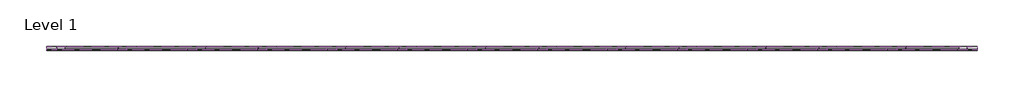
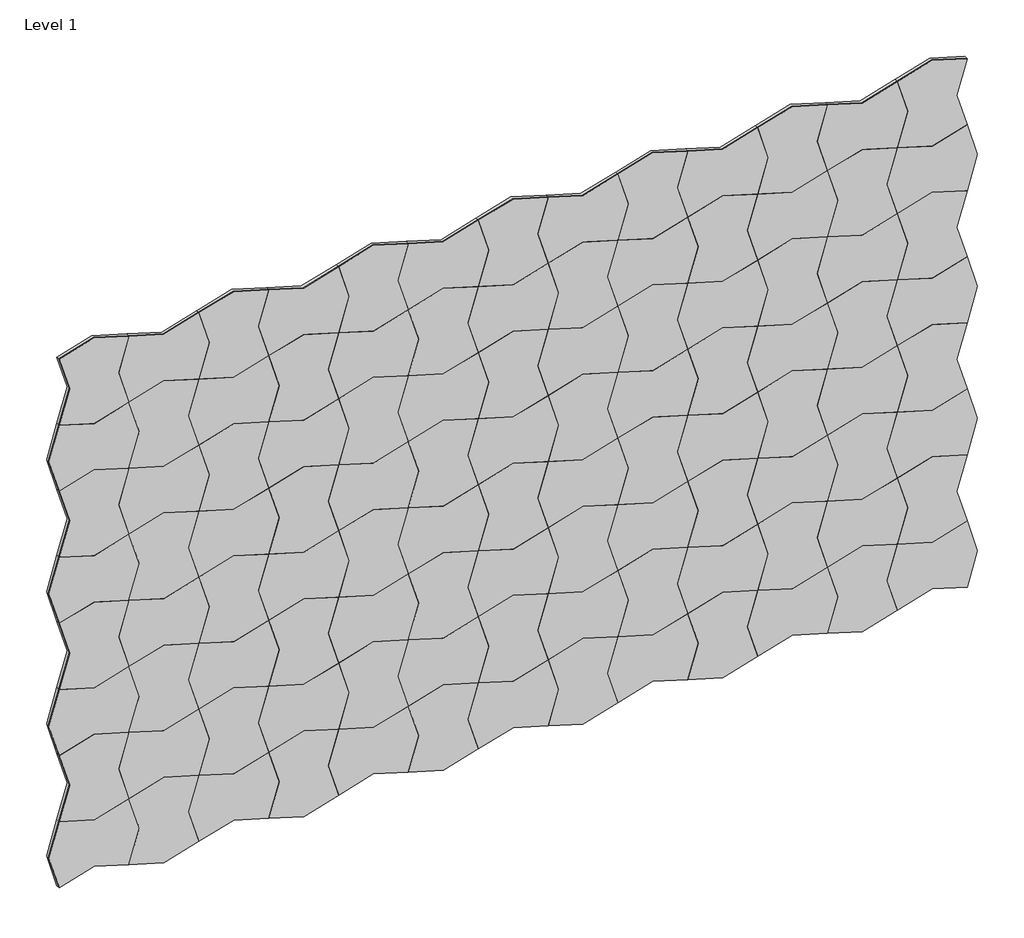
# One storey: 104 proxies.
"""IFC4 building model written with IfcOpenShell, lengths in millimetres."""

from ifc_helpers import new_model, si_unit, origin, place, context, project, spatial, transform, mapped, element, save
from components import bottle_block_542249b9

model = new_model("IFC4")

# Units and contexts
model_context = context("Model", 3, world=origin())
ifc_project = project(units=[si_unit("LENGTHUNIT", "METRE", prefix="MILLI")], contexts=[model_context])

# Site, building, storey
site = spatial("IfcSite", under=ifc_project)
building = spatial("IfcBuilding", under=site)
storey = spatial("IfcBuildingStorey", under=building, Name="Level 1", Elevation=0.0)

# Proxies
placement = place(None, origin())
bottle_block_shape = bottle_block_542249b9(model_context)
element("IfcBuildingElementProxy", 1, Name="FilzFelt_Bottle_Block : Bottle Block", ObjectType="FilzFelt_Bottle_Block : Bottle Block", at=placement, inside=storey, context=model_context, shape_type="MappedRepresentation", body=[
    mapped(bottle_block_shape, transform((6016.2513263, 4010.4660665, 1221.8130651), x_axis=(1.0, 0.0, 0.0), y_axis=(0.0, 0.0, 1.0), z_axis=(0.0, -1.0, 0.0))),
])
element("IfcBuildingElementProxy", 2, Name="FilzFelt_Bottle_Block : Bottle Block", ObjectType="FilzFelt_Bottle_Block : Bottle Block", at=placement, inside=storey, context=model_context, shape_type="MappedRepresentation", body=[
    mapped(bottle_block_shape, transform((6251.2013263, 4010.4660665, 1926.6630651), x_axis=(-1.0, 0.0, 0.0), y_axis=(0.0, 0.0, -1.0), z_axis=(0.0, -1.0, 0.0))),
])
element("IfcBuildingElementProxy", 3, Name="FilzFelt_Bottle_Block : Bottle Block", ObjectType="FilzFelt_Bottle_Block : Bottle Block", at=placement, inside=storey, context=model_context, shape_type="MappedRepresentation", body=[
    mapped(bottle_block_shape, transform((6016.2513263, 4010.4660665, 1926.6630651), x_axis=(0.0, 0.0, -1.0), y_axis=(1.0, 0.0, 0.0), z_axis=(0.0, -1.0, 0.0))),
])
element("IfcBuildingElementProxy", 4, Name="FilzFelt_Bottle_Block : Bottle Block", ObjectType="FilzFelt_Bottle_Block : Bottle Block", at=placement, inside=storey, context=model_context, shape_type="MappedRepresentation", body=[
    mapped(bottle_block_shape, transform((6956.0513263, 4010.4660665, 1691.7130651), x_axis=(1.0, 0.0, 0.0), y_axis=(0.0, 0.0, 1.0), z_axis=(0.0, -1.0, 0.0))),
])
element("IfcBuildingElementProxy", 5, Name="FilzFelt_Bottle_Block : Bottle Block", ObjectType="FilzFelt_Bottle_Block : Bottle Block", at=placement, inside=storey, context=model_context, shape_type="MappedRepresentation", body=[
    mapped(bottle_block_shape, transform((7425.9513263, 4010.4660665, 1221.8130651), x_axis=(1.0, 0.0, 0.0), y_axis=(0.0, 0.0, 1.0), z_axis=(0.0, -1.0, 0.0))),
])
element("IfcBuildingElementProxy", 6, Name="FilzFelt_Bottle_Block : Bottle Block", ObjectType="FilzFelt_Bottle_Block : Bottle Block", at=placement, inside=storey, context=model_context, shape_type="MappedRepresentation", body=[
    mapped(bottle_block_shape, transform((7660.9013263, 4010.4660665, 1926.6630651), x_axis=(-1.0, 0.0, 0.0), y_axis=(0.0, 0.0, -1.0), z_axis=(0.0, -1.0, 0.0))),
])
element("IfcBuildingElementProxy", 7, Name="FilzFelt_Bottle_Block : Bottle Block", ObjectType="FilzFelt_Bottle_Block : Bottle Block", at=placement, inside=storey, context=model_context, shape_type="MappedRepresentation", body=[
    mapped(bottle_block_shape, transform((7425.9513263, 4010.4660665, 1926.6630651), x_axis=(0.0, 0.0, -1.0), y_axis=(1.0, 0.0, 0.0), z_axis=(0.0, -1.0, 0.0))),
])
element("IfcBuildingElementProxy", 8, Name="FilzFelt_Bottle_Block : Bottle Block", ObjectType="FilzFelt_Bottle_Block : Bottle Block", at=placement, inside=storey, context=model_context, shape_type="MappedRepresentation", body=[
    mapped(bottle_block_shape, transform((5546.3513263, 4010.4660665, 1691.7130651), x_axis=(1.0, 0.0, 0.0), y_axis=(0.0, 0.0, 1.0), z_axis=(0.0, -1.0, 0.0))),
])
element("IfcBuildingElementProxy", 9, Name="FilzFelt_Bottle_Block : Bottle Block", ObjectType="FilzFelt_Bottle_Block : Bottle Block", at=placement, inside=storey, context=model_context, shape_type="MappedRepresentation", body=[
    mapped(bottle_block_shape, transform((6016.2513263, 4010.4660665, 986.8630651), x_axis=(0.0, 0.0, -1.0), y_axis=(1.0, 0.0, 0.0), z_axis=(0.0, -1.0, 0.0))),
])
element("IfcBuildingElementProxy", 10, Name="FilzFelt_Bottle_Block : Bottle Block", ObjectType="FilzFelt_Bottle_Block : Bottle Block", at=placement, inside=storey, context=model_context, shape_type="MappedRepresentation", body=[
    mapped(bottle_block_shape, transform((6721.1013263, 4010.4660665, 751.9130651), x_axis=(0.0, 0.0, 1.0), y_axis=(-1.0, 0.0, 0.0), z_axis=(0.0, -1.0, 0.0))),
])
element("IfcBuildingElementProxy", 11, Name="FilzFelt_Bottle_Block : Bottle Block", ObjectType="FilzFelt_Bottle_Block : Bottle Block", at=placement, inside=storey, context=model_context, shape_type="MappedRepresentation", body=[
    mapped(bottle_block_shape, transform((7425.9513263, 4010.4660665, 986.8630651), x_axis=(0.0, 0.0, -1.0), y_axis=(1.0, 0.0, 0.0), z_axis=(0.0, -1.0, 0.0))),
])
element("IfcBuildingElementProxy", 12, Name="FilzFelt_Bottle_Block : Bottle Block", ObjectType="FilzFelt_Bottle_Block : Bottle Block", at=placement, inside=storey, context=model_context, shape_type="MappedRepresentation", body=[
    mapped(bottle_block_shape, transform((8130.8013263, 4010.4660665, 751.9130651), x_axis=(0.0, 0.0, 1.0), y_axis=(-1.0, 0.0, 0.0), z_axis=(0.0, -1.0, 0.0))),
])
element("IfcBuildingElementProxy", 13, Name="FilzFelt_Bottle_Block : Bottle Block", ObjectType="FilzFelt_Bottle_Block : Bottle Block", at=placement, inside=storey, context=model_context, shape_type="MappedRepresentation", body=[
    mapped(bottle_block_shape, transform((6721.1013263, 4010.4660665, 516.9630651), x_axis=(-1.0, 0.0, 0.0), y_axis=(0.0, 0.0, -1.0), z_axis=(0.0, -1.0, 0.0))),
])
element("IfcBuildingElementProxy", 14, Name="FilzFelt_Bottle_Block : Bottle Block", ObjectType="FilzFelt_Bottle_Block : Bottle Block", at=placement, inside=storey, context=model_context, shape_type="MappedRepresentation", body=[
    mapped(bottle_block_shape, transform((8130.8013263, 4010.4660665, 516.9630651), x_axis=(-1.0, 0.0, 0.0), y_axis=(0.0, 0.0, -1.0), z_axis=(0.0, -1.0, 0.0))),
])
element("IfcBuildingElementProxy", 15, Name="FilzFelt_Bottle_Block : Bottle Block", ObjectType="FilzFelt_Bottle_Block : Bottle Block", at=placement, inside=storey, context=model_context, shape_type="MappedRepresentation", body=[
    mapped(bottle_block_shape, transform((8365.7513263, 4010.4660665, 1691.7130651), x_axis=(1.0, 0.0, 0.0), y_axis=(0.0, 0.0, 1.0), z_axis=(0.0, -1.0, 0.0))),
])
element("IfcBuildingElementProxy", 16, Name="FilzFelt_Bottle_Block : Bottle Block", ObjectType="FilzFelt_Bottle_Block : Bottle Block", at=placement, inside=storey, context=model_context, shape_type="MappedRepresentation", body=[
    mapped(bottle_block_shape, transform((6721.1013263, 4010.4660665, 1221.8130651), x_axis=(0.0, 0.0, 1.0), y_axis=(-1.0, 0.0, 0.0), z_axis=(0.0, -1.0, 0.0))),
])
element("IfcBuildingElementProxy", 17, Name="FilzFelt_Bottle_Block : Bottle Block", ObjectType="FilzFelt_Bottle_Block : Bottle Block", at=placement, inside=storey, context=model_context, shape_type="MappedRepresentation", body=[
    mapped(bottle_block_shape, transform((6721.1013263, 4010.4660665, 1456.7630651), x_axis=(-1.0, 0.0, 0.0), y_axis=(0.0, 0.0, -1.0), z_axis=(0.0, -1.0, 0.0))),
])
element("IfcBuildingElementProxy", 18, Name="FilzFelt_Bottle_Block : Bottle Block", ObjectType="FilzFelt_Bottle_Block : Bottle Block", at=placement, inside=storey, context=model_context, shape_type="MappedRepresentation", body=[
    mapped(bottle_block_shape, transform((6486.1513263, 4010.4660665, 1691.7130651), x_axis=(1.0, 0.0, 0.0), y_axis=(0.0, 0.0, 1.0), z_axis=(0.0, -1.0, 0.0))),
])
element("IfcBuildingElementProxy", 19, Name="FilzFelt_Bottle_Block : Bottle Block", ObjectType="FilzFelt_Bottle_Block : Bottle Block", at=placement, inside=storey, context=model_context, shape_type="MappedRepresentation", body=[
    mapped(bottle_block_shape, transform((6486.1513263, 4010.4660665, 1926.6630651), x_axis=(0.0, 0.0, -1.0), y_axis=(1.0, 0.0, 0.0), z_axis=(0.0, -1.0, 0.0))),
])
element("IfcBuildingElementProxy", 20, Name="FilzFelt_Bottle_Block : Bottle Block", ObjectType="FilzFelt_Bottle_Block : Bottle Block", at=placement, inside=storey, context=model_context, shape_type="MappedRepresentation", body=[
    mapped(bottle_block_shape, transform((7191.0013263, 4010.4660665, 1456.7630651), x_axis=(-1.0, 0.0, 0.0), y_axis=(0.0, 0.0, -1.0), z_axis=(0.0, -1.0, 0.0))),
])
element("IfcBuildingElementProxy", 21, Name="FilzFelt_Bottle_Block : Bottle Block", ObjectType="FilzFelt_Bottle_Block : Bottle Block", at=placement, inside=storey, context=model_context, shape_type="MappedRepresentation", body=[
    mapped(bottle_block_shape, transform((6956.0513263, 4010.4660665, 1456.7630651), x_axis=(0.0, 0.0, -1.0), y_axis=(1.0, 0.0, 0.0), z_axis=(0.0, -1.0, 0.0))),
])
element("IfcBuildingElementProxy", 22, Name="FilzFelt_Bottle_Block : Bottle Block", ObjectType="FilzFelt_Bottle_Block : Bottle Block", at=placement, inside=storey, context=model_context, shape_type="MappedRepresentation", body=[
    mapped(bottle_block_shape, transform((8130.8013263, 4010.4660665, 1221.8130651), x_axis=(0.0, 0.0, 1.0), y_axis=(-1.0, 0.0, 0.0), z_axis=(0.0, -1.0, 0.0))),
])
element("IfcBuildingElementProxy", 23, Name="FilzFelt_Bottle_Block : Bottle Block", ObjectType="FilzFelt_Bottle_Block : Bottle Block", at=placement, inside=storey, context=model_context, shape_type="MappedRepresentation", body=[
    mapped(bottle_block_shape, transform((8130.8013263, 4010.4660665, 1456.7630651), x_axis=(-1.0, 0.0, 0.0), y_axis=(0.0, 0.0, -1.0), z_axis=(0.0, -1.0, 0.0))),
])
element("IfcBuildingElementProxy", 24, Name="FilzFelt_Bottle_Block : Bottle Block", ObjectType="FilzFelt_Bottle_Block : Bottle Block", at=placement, inside=storey, context=model_context, shape_type="MappedRepresentation", body=[
    mapped(bottle_block_shape, transform((7895.8513263, 4010.4660665, 1691.7130651), x_axis=(1.0, 0.0, 0.0), y_axis=(0.0, 0.0, 1.0), z_axis=(0.0, -1.0, 0.0))),
])
element("IfcBuildingElementProxy", 25, Name="FilzFelt_Bottle_Block : Bottle Block", ObjectType="FilzFelt_Bottle_Block : Bottle Block", at=placement, inside=storey, context=model_context, shape_type="MappedRepresentation", body=[
    mapped(bottle_block_shape, transform((7895.8513263, 4010.4660665, 1926.6630651), x_axis=(0.0, 0.0, -1.0), y_axis=(1.0, 0.0, 0.0), z_axis=(0.0, -1.0, 0.0))),
])
element("IfcBuildingElementProxy", 26, Name="FilzFelt_Bottle_Block : Bottle Block", ObjectType="FilzFelt_Bottle_Block : Bottle Block", at=placement, inside=storey, context=model_context, shape_type="MappedRepresentation", body=[
    mapped(bottle_block_shape, transform((5781.3013263, 4010.4660665, 1456.7630651), x_axis=(-1.0, 0.0, 0.0), y_axis=(0.0, 0.0, -1.0), z_axis=(0.0, -1.0, 0.0))),
])
element("IfcBuildingElementProxy", 27, Name="FilzFelt_Bottle_Block : Bottle Block", ObjectType="FilzFelt_Bottle_Block : Bottle Block", at=placement, inside=storey, context=model_context, shape_type="MappedRepresentation", body=[
    mapped(bottle_block_shape, transform((5546.3513263, 4010.4660665, 1456.7630651), x_axis=(0.0, 0.0, -1.0), y_axis=(1.0, 0.0, 0.0), z_axis=(0.0, -1.0, 0.0))),
])
element("IfcBuildingElementProxy", 28, Name="FilzFelt_Bottle_Block : Bottle Block", ObjectType="FilzFelt_Bottle_Block : Bottle Block", at=placement, inside=storey, context=model_context, shape_type="MappedRepresentation", body=[
    mapped(bottle_block_shape, transform((6016.2513263, 4010.4660665, 516.9630651), x_axis=(0.0, 0.0, -1.0), y_axis=(1.0, 0.0, 0.0), z_axis=(0.0, -1.0, 0.0))),
])
element("IfcBuildingElementProxy", 29, Name="FilzFelt_Bottle_Block : Bottle Block", ObjectType="FilzFelt_Bottle_Block : Bottle Block", at=placement, inside=storey, context=model_context, shape_type="MappedRepresentation", body=[
    mapped(bottle_block_shape, transform((7191.0013263, 4010.4660665, 516.9630651), x_axis=(-1.0, 0.0, 0.0), y_axis=(0.0, 0.0, -1.0), z_axis=(0.0, -1.0, 0.0))),
])
element("IfcBuildingElementProxy", 30, Name="FilzFelt_Bottle_Block : Bottle Block", ObjectType="FilzFelt_Bottle_Block : Bottle Block", at=placement, inside=storey, context=model_context, shape_type="MappedRepresentation", body=[
    mapped(bottle_block_shape, transform((7425.9513263, 4010.4660665, 516.9630651), x_axis=(0.0, 0.0, -1.0), y_axis=(1.0, 0.0, 0.0), z_axis=(0.0, -1.0, 0.0))),
])
element("IfcBuildingElementProxy", 31, Name="FilzFelt_Bottle_Block : Bottle Block", ObjectType="FilzFelt_Bottle_Block : Bottle Block", at=placement, inside=storey, context=model_context, shape_type="MappedRepresentation", body=[
    mapped(bottle_block_shape, transform((5781.3013263, 4010.4660665, 516.9630651), x_axis=(-1.0, 0.0, 0.0), y_axis=(0.0, 0.0, -1.0), z_axis=(0.0, -1.0, 0.0))),
])
element("IfcBuildingElementProxy", 32, Name="FilzFelt_Bottle_Block : Bottle Block", ObjectType="FilzFelt_Bottle_Block : Bottle Block", at=placement, inside=storey, context=model_context, shape_type="MappedRepresentation", body=[
    mapped(bottle_block_shape, transform((8365.7513263, 4010.4660665, 1456.7630651), x_axis=(0.0, 0.0, -1.0), y_axis=(1.0, 0.0, 0.0), z_axis=(0.0, -1.0, 0.0))),
])
element("IfcBuildingElementProxy", 33, Name="FilzFelt_Bottle_Block : Bottle Block", ObjectType="FilzFelt_Bottle_Block : Bottle Block", at=placement, inside=storey, context=model_context, shape_type="MappedRepresentation", body=[
    mapped(bottle_block_shape, transform((6251.2013263, 4010.4660665, 1221.8130651), x_axis=(0.0, 0.0, 1.0), y_axis=(-1.0, 0.0, 0.0), z_axis=(0.0, -1.0, 0.0))),
])
element("IfcBuildingElementProxy", 34, Name="FilzFelt_Bottle_Block : Bottle Block", ObjectType="FilzFelt_Bottle_Block : Bottle Block", at=placement, inside=storey, context=model_context, shape_type="MappedRepresentation", body=[
    mapped(bottle_block_shape, transform((6251.2013263, 4010.4660665, 1456.7630651), x_axis=(-1.0, 0.0, 0.0), y_axis=(0.0, 0.0, -1.0), z_axis=(0.0, -1.0, 0.0))),
])
element("IfcBuildingElementProxy", 35, Name="FilzFelt_Bottle_Block : Bottle Block", ObjectType="FilzFelt_Bottle_Block : Bottle Block", at=placement, inside=storey, context=model_context, shape_type="MappedRepresentation", body=[
    mapped(bottle_block_shape, transform((6486.1513263, 4010.4660665, 2161.6130651), x_axis=(1.0, 0.0, 0.0), y_axis=(0.0, 0.0, 1.0), z_axis=(0.0, -1.0, 0.0))),
])
element("IfcBuildingElementProxy", 36, Name="FilzFelt_Bottle_Block : Bottle Block", ObjectType="FilzFelt_Bottle_Block : Bottle Block", at=placement, inside=storey, context=model_context, shape_type="MappedRepresentation", body=[
    mapped(bottle_block_shape, transform((6721.1013263, 4010.4660665, 2161.6130651), x_axis=(0.0, 0.0, 1.0), y_axis=(-1.0, 0.0, 0.0), z_axis=(0.0, -1.0, 0.0))),
])
element("IfcBuildingElementProxy", 37, Name="FilzFelt_Bottle_Block : Bottle Block", ObjectType="FilzFelt_Bottle_Block : Bottle Block", at=placement, inside=storey, context=model_context, shape_type="MappedRepresentation", body=[
    mapped(bottle_block_shape, transform((7191.0013263, 4010.4660665, 1926.6630651), x_axis=(-1.0, 0.0, 0.0), y_axis=(0.0, 0.0, -1.0), z_axis=(0.0, -1.0, 0.0))),
])
element("IfcBuildingElementProxy", 38, Name="FilzFelt_Bottle_Block : Bottle Block", ObjectType="FilzFelt_Bottle_Block : Bottle Block", at=placement, inside=storey, context=model_context, shape_type="MappedRepresentation", body=[
    mapped(bottle_block_shape, transform((7191.0013263, 4010.4660665, 2161.6130651), x_axis=(0.0, 0.0, 1.0), y_axis=(-1.0, 0.0, 0.0), z_axis=(0.0, -1.0, 0.0))),
])
element("IfcBuildingElementProxy", 39, Name="FilzFelt_Bottle_Block : Bottle Block", ObjectType="FilzFelt_Bottle_Block : Bottle Block", at=placement, inside=storey, context=model_context, shape_type="MappedRepresentation", body=[
    mapped(bottle_block_shape, transform((7660.9013263, 4010.4660665, 1221.8130651), x_axis=(0.0, 0.0, 1.0), y_axis=(-1.0, 0.0, 0.0), z_axis=(0.0, -1.0, 0.0))),
])
element("IfcBuildingElementProxy", 40, Name="FilzFelt_Bottle_Block : Bottle Block", ObjectType="FilzFelt_Bottle_Block : Bottle Block", at=placement, inside=storey, context=model_context, shape_type="MappedRepresentation", body=[
    mapped(bottle_block_shape, transform((7660.9013263, 4010.4660665, 1456.7630651), x_axis=(-1.0, 0.0, 0.0), y_axis=(0.0, 0.0, -1.0), z_axis=(0.0, -1.0, 0.0))),
])
element("IfcBuildingElementProxy", 41, Name="FilzFelt_Bottle_Block : Bottle Block", ObjectType="FilzFelt_Bottle_Block : Bottle Block", at=placement, inside=storey, context=model_context, shape_type="MappedRepresentation", body=[
    mapped(bottle_block_shape, transform((7895.8513263, 4010.4660665, 2161.6130651), x_axis=(1.0, 0.0, 0.0), y_axis=(0.0, 0.0, 1.0), z_axis=(0.0, -1.0, 0.0))),
])
element("IfcBuildingElementProxy", 42, Name="FilzFelt_Bottle_Block : Bottle Block", ObjectType="FilzFelt_Bottle_Block : Bottle Block", at=placement, inside=storey, context=model_context, shape_type="MappedRepresentation", body=[
    mapped(bottle_block_shape, transform((8130.8013263, 4010.4660665, 2161.6130651), x_axis=(0.0, 0.0, 1.0), y_axis=(-1.0, 0.0, 0.0), z_axis=(0.0, -1.0, 0.0))),
])
element("IfcBuildingElementProxy", 43, Name="FilzFelt_Bottle_Block : Bottle Block", ObjectType="FilzFelt_Bottle_Block : Bottle Block", at=placement, inside=storey, context=model_context, shape_type="MappedRepresentation", body=[
    mapped(bottle_block_shape, transform((5781.3013263, 4010.4660665, 1926.6630651), x_axis=(-1.0, 0.0, 0.0), y_axis=(0.0, 0.0, -1.0), z_axis=(0.0, -1.0, 0.0))),
])
element("IfcBuildingElementProxy", 44, Name="FilzFelt_Bottle_Block : Bottle Block", ObjectType="FilzFelt_Bottle_Block : Bottle Block", at=placement, inside=storey, context=model_context, shape_type="MappedRepresentation", body=[
    mapped(bottle_block_shape, transform((5781.3013263, 4010.4660665, 2161.6130651), x_axis=(0.0, 0.0, 1.0), y_axis=(-1.0, 0.0, 0.0), z_axis=(0.0, -1.0, 0.0))),
])
element("IfcBuildingElementProxy", 45, Name="FilzFelt_Bottle_Block : Bottle Block", ObjectType="FilzFelt_Bottle_Block : Bottle Block", at=placement, inside=storey, context=model_context, shape_type="MappedRepresentation", body=[
    mapped(bottle_block_shape, transform((6251.2013263, 4010.4660665, 751.9130651), x_axis=(0.0, 0.0, 1.0), y_axis=(-1.0, 0.0, 0.0), z_axis=(0.0, -1.0, 0.0))),
])
element("IfcBuildingElementProxy", 46, Name="FilzFelt_Bottle_Block : Bottle Block", ObjectType="FilzFelt_Bottle_Block : Bottle Block", at=placement, inside=storey, context=model_context, shape_type="MappedRepresentation", body=[
    mapped(bottle_block_shape, transform((6486.1513263, 4010.4660665, 751.9130651), x_axis=(1.0, 0.0, 0.0), y_axis=(0.0, 0.0, 1.0), z_axis=(0.0, -1.0, 0.0))),
])
element("IfcBuildingElementProxy", 47, Name="FilzFelt_Bottle_Block : Bottle Block", ObjectType="FilzFelt_Bottle_Block : Bottle Block", at=placement, inside=storey, context=model_context, shape_type="MappedRepresentation", body=[
    mapped(bottle_block_shape, transform((6721.1013263, 4010.4660665, 986.8630651), x_axis=(-1.0, 0.0, 0.0), y_axis=(0.0, 0.0, -1.0), z_axis=(0.0, -1.0, 0.0))),
])
element("IfcBuildingElementProxy", 48, Name="FilzFelt_Bottle_Block : Bottle Block", ObjectType="FilzFelt_Bottle_Block : Bottle Block", at=placement, inside=storey, context=model_context, shape_type="MappedRepresentation", body=[
    mapped(bottle_block_shape, transform((6956.0513263, 4010.4660665, 751.9130651), x_axis=(1.0, 0.0, 0.0), y_axis=(0.0, 0.0, 1.0), z_axis=(0.0, -1.0, 0.0))),
])
element("IfcBuildingElementProxy", 49, Name="FilzFelt_Bottle_Block : Bottle Block", ObjectType="FilzFelt_Bottle_Block : Bottle Block", at=placement, inside=storey, context=model_context, shape_type="MappedRepresentation", body=[
    mapped(bottle_block_shape, transform((6956.0513263, 4010.4660665, 986.8630651), x_axis=(0.0, 0.0, -1.0), y_axis=(1.0, 0.0, 0.0), z_axis=(0.0, -1.0, 0.0))),
])
element("IfcBuildingElementProxy", 50, Name="FilzFelt_Bottle_Block : Bottle Block", ObjectType="FilzFelt_Bottle_Block : Bottle Block", at=placement, inside=storey, context=model_context, shape_type="MappedRepresentation", body=[
    mapped(bottle_block_shape, transform((7660.9013263, 4010.4660665, 751.9130651), x_axis=(0.0, 0.0, 1.0), y_axis=(-1.0, 0.0, 0.0), z_axis=(0.0, -1.0, 0.0))),
])
element("IfcBuildingElementProxy", 51, Name="FilzFelt_Bottle_Block : Bottle Block", ObjectType="FilzFelt_Bottle_Block : Bottle Block", at=placement, inside=storey, context=model_context, shape_type="MappedRepresentation", body=[
    mapped(bottle_block_shape, transform((7895.8513263, 4010.4660665, 751.9130651), x_axis=(1.0, 0.0, 0.0), y_axis=(0.0, 0.0, 1.0), z_axis=(0.0, -1.0, 0.0))),
])
element("IfcBuildingElementProxy", 52, Name="FilzFelt_Bottle_Block : Bottle Block", ObjectType="FilzFelt_Bottle_Block : Bottle Block", at=placement, inside=storey, context=model_context, shape_type="MappedRepresentation", body=[
    mapped(bottle_block_shape, transform((8130.8013263, 4010.4660665, 986.8630651), x_axis=(-1.0, 0.0, 0.0), y_axis=(0.0, 0.0, -1.0), z_axis=(0.0, -1.0, 0.0))),
])
element("IfcBuildingElementProxy", 53, Name="FilzFelt_Bottle_Block : Bottle Block", ObjectType="FilzFelt_Bottle_Block : Bottle Block", at=placement, inside=storey, context=model_context, shape_type="MappedRepresentation", body=[
    mapped(bottle_block_shape, transform((5546.3513263, 4010.4660665, 751.9130651), x_axis=(1.0, 0.0, 0.0), y_axis=(0.0, 0.0, 1.0), z_axis=(0.0, -1.0, 0.0))),
])
element("IfcBuildingElementProxy", 54, Name="FilzFelt_Bottle_Block : Bottle Block", ObjectType="FilzFelt_Bottle_Block : Bottle Block", at=placement, inside=storey, context=model_context, shape_type="MappedRepresentation", body=[
    mapped(bottle_block_shape, transform((5546.3513263, 4010.4660665, 986.8630651), x_axis=(0.0, 0.0, -1.0), y_axis=(1.0, 0.0, 0.0), z_axis=(0.0, -1.0, 0.0))),
])
element("IfcBuildingElementProxy", 55, Name="FilzFelt_Bottle_Block : Bottle Block", ObjectType="FilzFelt_Bottle_Block : Bottle Block", at=placement, inside=storey, context=model_context, shape_type="MappedRepresentation", body=[
    mapped(bottle_block_shape, transform((8365.7513263, 4010.4660665, 751.9130651), x_axis=(1.0, 0.0, 0.0), y_axis=(0.0, 0.0, 1.0), z_axis=(0.0, -1.0, 0.0))),
])
element("IfcBuildingElementProxy", 56, Name="FilzFelt_Bottle_Block : Bottle Block", ObjectType="FilzFelt_Bottle_Block : Bottle Block", at=placement, inside=storey, context=model_context, shape_type="MappedRepresentation", body=[
    mapped(bottle_block_shape, transform((8365.7513263, 4010.4660665, 986.8630651), x_axis=(0.0, 0.0, -1.0), y_axis=(1.0, 0.0, 0.0), z_axis=(0.0, -1.0, 0.0))),
])
element("IfcBuildingElementProxy", 57, Name="FilzFelt_Bottle_Block : Bottle Block", ObjectType="FilzFelt_Bottle_Block : Bottle Block", at=placement, inside=storey, context=model_context, shape_type="MappedRepresentation", body=[
    mapped(bottle_block_shape, transform((6016.2513263, 4010.4660665, 1456.7630651), x_axis=(0.0, 0.0, -1.0), y_axis=(1.0, 0.0, 0.0), z_axis=(0.0, -1.0, 0.0))),
])
element("IfcBuildingElementProxy", 58, Name="FilzFelt_Bottle_Block : Bottle Block", ObjectType="FilzFelt_Bottle_Block : Bottle Block", at=placement, inside=storey, context=model_context, shape_type="MappedRepresentation", body=[
    mapped(bottle_block_shape, transform((6016.2513263, 4010.4660665, 1691.7130651), x_axis=(1.0, 0.0, 0.0), y_axis=(0.0, 0.0, 1.0), z_axis=(0.0, -1.0, 0.0))),
])
element("IfcBuildingElementProxy", 59, Name="FilzFelt_Bottle_Block : Bottle Block", ObjectType="FilzFelt_Bottle_Block : Bottle Block", at=placement, inside=storey, context=model_context, shape_type="MappedRepresentation", body=[
    mapped(bottle_block_shape, transform((6251.2013263, 4010.4660665, 1691.7130651), x_axis=(0.0, 0.0, 1.0), y_axis=(-1.0, 0.0, 0.0), z_axis=(0.0, -1.0, 0.0))),
])
element("IfcBuildingElementProxy", 60, Name="FilzFelt_Bottle_Block : Bottle Block", ObjectType="FilzFelt_Bottle_Block : Bottle Block", at=placement, inside=storey, context=model_context, shape_type="MappedRepresentation", body=[
    mapped(bottle_block_shape, transform((6016.2513263, 4010.4660665, 2161.6130651), x_axis=(1.0, 0.0, 0.0), y_axis=(0.0, 0.0, 1.0), z_axis=(0.0, -1.0, 0.0))),
])
element("IfcBuildingElementProxy", 61, Name="FilzFelt_Bottle_Block : Bottle Block", ObjectType="FilzFelt_Bottle_Block : Bottle Block", at=placement, inside=storey, context=model_context, shape_type="MappedRepresentation", body=[
    mapped(bottle_block_shape, transform((6251.2013263, 4010.4660665, 2161.6130651), x_axis=(0.0, 0.0, 1.0), y_axis=(-1.0, 0.0, 0.0), z_axis=(0.0, -1.0, 0.0))),
])
element("IfcBuildingElementProxy", 62, Name="FilzFelt_Bottle_Block : Bottle Block", ObjectType="FilzFelt_Bottle_Block : Bottle Block", at=placement, inside=storey, context=model_context, shape_type="MappedRepresentation", body=[
    mapped(bottle_block_shape, transform((6486.1513263, 4010.4660665, 1221.8130651), x_axis=(1.0, 0.0, 0.0), y_axis=(0.0, 0.0, 1.0), z_axis=(0.0, -1.0, 0.0))),
])
element("IfcBuildingElementProxy", 63, Name="FilzFelt_Bottle_Block : Bottle Block", ObjectType="FilzFelt_Bottle_Block : Bottle Block", at=placement, inside=storey, context=model_context, shape_type="MappedRepresentation", body=[
    mapped(bottle_block_shape, transform((6486.1513263, 4010.4660665, 1456.7630651), x_axis=(0.0, 0.0, -1.0), y_axis=(1.0, 0.0, 0.0), z_axis=(0.0, -1.0, 0.0))),
])
element("IfcBuildingElementProxy", 64, Name="FilzFelt_Bottle_Block : Bottle Block", ObjectType="FilzFelt_Bottle_Block : Bottle Block", at=placement, inside=storey, context=model_context, shape_type="MappedRepresentation", body=[
    mapped(bottle_block_shape, transform((6721.1013263, 4010.4660665, 1691.7130651), x_axis=(0.0, 0.0, 1.0), y_axis=(-1.0, 0.0, 0.0), z_axis=(0.0, -1.0, 0.0))),
])
element("IfcBuildingElementProxy", 65, Name="FilzFelt_Bottle_Block : Bottle Block", ObjectType="FilzFelt_Bottle_Block : Bottle Block", at=placement, inside=storey, context=model_context, shape_type="MappedRepresentation", body=[
    mapped(bottle_block_shape, transform((6721.1013263, 4010.4660665, 1926.6630651), x_axis=(-1.0, 0.0, 0.0), y_axis=(0.0, 0.0, -1.0), z_axis=(0.0, -1.0, 0.0))),
])
element("IfcBuildingElementProxy", 66, Name="FilzFelt_Bottle_Block : Bottle Block", ObjectType="FilzFelt_Bottle_Block : Bottle Block", at=placement, inside=storey, context=model_context, shape_type="MappedRepresentation", body=[
    mapped(bottle_block_shape, transform((6956.0513263, 4010.4660665, 1221.8130651), x_axis=(1.0, 0.0, 0.0), y_axis=(0.0, 0.0, 1.0), z_axis=(0.0, -1.0, 0.0))),
])
element("IfcBuildingElementProxy", 67, Name="FilzFelt_Bottle_Block : Bottle Block", ObjectType="FilzFelt_Bottle_Block : Bottle Block", at=placement, inside=storey, context=model_context, shape_type="MappedRepresentation", body=[
    mapped(bottle_block_shape, transform((7191.0013263, 4010.4660665, 1221.8130651), x_axis=(0.0, 0.0, 1.0), y_axis=(-1.0, 0.0, 0.0), z_axis=(0.0, -1.0, 0.0))),
])
element("IfcBuildingElementProxy", 68, Name="FilzFelt_Bottle_Block : Bottle Block", ObjectType="FilzFelt_Bottle_Block : Bottle Block", at=placement, inside=storey, context=model_context, shape_type="MappedRepresentation", body=[
    mapped(bottle_block_shape, transform((7191.0013263, 4010.4660665, 1691.7130651), x_axis=(0.0, 0.0, 1.0), y_axis=(-1.0, 0.0, 0.0), z_axis=(0.0, -1.0, 0.0))),
])
element("IfcBuildingElementProxy", 69, Name="FilzFelt_Bottle_Block : Bottle Block", ObjectType="FilzFelt_Bottle_Block : Bottle Block", at=placement, inside=storey, context=model_context, shape_type="MappedRepresentation", body=[
    mapped(bottle_block_shape, transform((6956.0513263, 4010.4660665, 1926.6630651), x_axis=(0.0, 0.0, -1.0), y_axis=(1.0, 0.0, 0.0), z_axis=(0.0, -1.0, 0.0))),
])
element("IfcBuildingElementProxy", 70, Name="FilzFelt_Bottle_Block : Bottle Block", ObjectType="FilzFelt_Bottle_Block : Bottle Block", at=placement, inside=storey, context=model_context, shape_type="MappedRepresentation", body=[
    mapped(bottle_block_shape, transform((6956.0513263, 4010.4660665, 2161.6130651), x_axis=(1.0, 0.0, 0.0), y_axis=(0.0, 0.0, 1.0), z_axis=(0.0, -1.0, 0.0))),
])
element("IfcBuildingElementProxy", 71, Name="FilzFelt_Bottle_Block : Bottle Block", ObjectType="FilzFelt_Bottle_Block : Bottle Block", at=placement, inside=storey, context=model_context, shape_type="MappedRepresentation", body=[
    mapped(bottle_block_shape, transform((7425.9513263, 4010.4660665, 1456.7630651), x_axis=(0.0, 0.0, -1.0), y_axis=(1.0, 0.0, 0.0), z_axis=(0.0, -1.0, 0.0))),
])
element("IfcBuildingElementProxy", 72, Name="FilzFelt_Bottle_Block : Bottle Block", ObjectType="FilzFelt_Bottle_Block : Bottle Block", at=placement, inside=storey, context=model_context, shape_type="MappedRepresentation", body=[
    mapped(bottle_block_shape, transform((7425.9513263, 4010.4660665, 1691.7130651), x_axis=(1.0, 0.0, 0.0), y_axis=(0.0, 0.0, 1.0), z_axis=(0.0, -1.0, 0.0))),
])
element("IfcBuildingElementProxy", 73, Name="FilzFelt_Bottle_Block : Bottle Block", ObjectType="FilzFelt_Bottle_Block : Bottle Block", at=placement, inside=storey, context=model_context, shape_type="MappedRepresentation", body=[
    mapped(bottle_block_shape, transform((7660.9013263, 4010.4660665, 1691.7130651), x_axis=(0.0, 0.0, 1.0), y_axis=(-1.0, 0.0, 0.0), z_axis=(0.0, -1.0, 0.0))),
])
element("IfcBuildingElementProxy", 74, Name="FilzFelt_Bottle_Block : Bottle Block", ObjectType="FilzFelt_Bottle_Block : Bottle Block", at=placement, inside=storey, context=model_context, shape_type="MappedRepresentation", body=[
    mapped(bottle_block_shape, transform((7425.9513263, 4010.4660665, 2161.6130651), x_axis=(1.0, 0.0, 0.0), y_axis=(0.0, 0.0, 1.0), z_axis=(0.0, -1.0, 0.0))),
])
element("IfcBuildingElementProxy", 75, Name="FilzFelt_Bottle_Block : Bottle Block", ObjectType="FilzFelt_Bottle_Block : Bottle Block", at=placement, inside=storey, context=model_context, shape_type="MappedRepresentation", body=[
    mapped(bottle_block_shape, transform((7660.9013263, 4010.4660665, 2161.6130651), x_axis=(0.0, 0.0, 1.0), y_axis=(-1.0, 0.0, 0.0), z_axis=(0.0, -1.0, 0.0))),
])
element("IfcBuildingElementProxy", 76, Name="FilzFelt_Bottle_Block : Bottle Block", ObjectType="FilzFelt_Bottle_Block : Bottle Block", at=placement, inside=storey, context=model_context, shape_type="MappedRepresentation", body=[
    mapped(bottle_block_shape, transform((7895.8513263, 4010.4660665, 1221.8130651), x_axis=(1.0, 0.0, 0.0), y_axis=(0.0, 0.0, 1.0), z_axis=(0.0, -1.0, 0.0))),
])
element("IfcBuildingElementProxy", 77, Name="FilzFelt_Bottle_Block : Bottle Block", ObjectType="FilzFelt_Bottle_Block : Bottle Block", at=placement, inside=storey, context=model_context, shape_type="MappedRepresentation", body=[
    mapped(bottle_block_shape, transform((7895.8513263, 4010.4660665, 1456.7630651), x_axis=(0.0, 0.0, -1.0), y_axis=(1.0, 0.0, 0.0), z_axis=(0.0, -1.0, 0.0))),
])
element("IfcBuildingElementProxy", 78, Name="FilzFelt_Bottle_Block : Bottle Block", ObjectType="FilzFelt_Bottle_Block : Bottle Block", at=placement, inside=storey, context=model_context, shape_type="MappedRepresentation", body=[
    mapped(bottle_block_shape, transform((8130.8013263, 4010.4660665, 1691.7130651), x_axis=(0.0, 0.0, 1.0), y_axis=(-1.0, 0.0, 0.0), z_axis=(0.0, -1.0, 0.0))),
])
element("IfcBuildingElementProxy", 79, Name="FilzFelt_Bottle_Block : Bottle Block", ObjectType="FilzFelt_Bottle_Block : Bottle Block", at=placement, inside=storey, context=model_context, shape_type="MappedRepresentation", body=[
    mapped(bottle_block_shape, transform((8130.8013263, 4010.4660665, 1926.6630651), x_axis=(-1.0, 0.0, 0.0), y_axis=(0.0, 0.0, -1.0), z_axis=(0.0, -1.0, 0.0))),
])
element("IfcBuildingElementProxy", 80, Name="FilzFelt_Bottle_Block : Bottle Block", ObjectType="FilzFelt_Bottle_Block : Bottle Block", at=placement, inside=storey, context=model_context, shape_type="MappedRepresentation", body=[
    mapped(bottle_block_shape, transform((5546.3513263, 4010.4660665, 1221.8130651), x_axis=(1.0, 0.0, 0.0), y_axis=(0.0, 0.0, 1.0), z_axis=(0.0, -1.0, 0.0))),
])
element("IfcBuildingElementProxy", 81, Name="FilzFelt_Bottle_Block : Bottle Block", ObjectType="FilzFelt_Bottle_Block : Bottle Block", at=placement, inside=storey, context=model_context, shape_type="MappedRepresentation", body=[
    mapped(bottle_block_shape, transform((5781.3013263, 4010.4660665, 1221.8130651), x_axis=(0.0, 0.0, 1.0), y_axis=(-1.0, 0.0, 0.0), z_axis=(0.0, -1.0, 0.0))),
])
element("IfcBuildingElementProxy", 82, Name="FilzFelt_Bottle_Block : Bottle Block", ObjectType="FilzFelt_Bottle_Block : Bottle Block", at=placement, inside=storey, context=model_context, shape_type="MappedRepresentation", body=[
    mapped(bottle_block_shape, transform((5781.3013263, 4010.4660665, 1691.7130651), x_axis=(0.0, 0.0, 1.0), y_axis=(-1.0, 0.0, 0.0), z_axis=(0.0, -1.0, 0.0))),
])
element("IfcBuildingElementProxy", 83, Name="FilzFelt_Bottle_Block : Bottle Block", ObjectType="FilzFelt_Bottle_Block : Bottle Block", at=placement, inside=storey, context=model_context, shape_type="MappedRepresentation", body=[
    mapped(bottle_block_shape, transform((5546.3513263, 4010.4660665, 1926.6630651), x_axis=(0.0, 0.0, -1.0), y_axis=(1.0, 0.0, 0.0), z_axis=(0.0, -1.0, 0.0))),
])
element("IfcBuildingElementProxy", 84, Name="FilzFelt_Bottle_Block : Bottle Block", ObjectType="FilzFelt_Bottle_Block : Bottle Block", at=placement, inside=storey, context=model_context, shape_type="MappedRepresentation", body=[
    mapped(bottle_block_shape, transform((5546.3513263, 4010.4660665, 2161.6130651), x_axis=(1.0, 0.0, 0.0), y_axis=(0.0, 0.0, 1.0), z_axis=(0.0, -1.0, 0.0))),
])
element("IfcBuildingElementProxy", 85, Name="FilzFelt_Bottle_Block : Bottle Block", ObjectType="FilzFelt_Bottle_Block : Bottle Block", at=placement, inside=storey, context=model_context, shape_type="MappedRepresentation", body=[
    mapped(bottle_block_shape, transform((6016.2513263, 4010.4660665, 751.9130651), x_axis=(1.0, 0.0, 0.0), y_axis=(0.0, 0.0, 1.0), z_axis=(0.0, -1.0, 0.0))),
])
element("IfcBuildingElementProxy", 86, Name="FilzFelt_Bottle_Block : Bottle Block", ObjectType="FilzFelt_Bottle_Block : Bottle Block", at=placement, inside=storey, context=model_context, shape_type="MappedRepresentation", body=[
    mapped(bottle_block_shape, transform((6251.2013263, 4010.4660665, 986.8630651), x_axis=(-1.0, 0.0, 0.0), y_axis=(0.0, 0.0, -1.0), z_axis=(0.0, -1.0, 0.0))),
])
element("IfcBuildingElementProxy", 87, Name="FilzFelt_Bottle_Block : Bottle Block", ObjectType="FilzFelt_Bottle_Block : Bottle Block", at=placement, inside=storey, context=model_context, shape_type="MappedRepresentation", body=[
    mapped(bottle_block_shape, transform((6486.1513263, 4010.4660665, 986.8630651), x_axis=(0.0, 0.0, -1.0), y_axis=(1.0, 0.0, 0.0), z_axis=(0.0, -1.0, 0.0))),
])
element("IfcBuildingElementProxy", 88, Name="FilzFelt_Bottle_Block : Bottle Block", ObjectType="FilzFelt_Bottle_Block : Bottle Block", at=placement, inside=storey, context=model_context, shape_type="MappedRepresentation", body=[
    mapped(bottle_block_shape, transform((7191.0013263, 4010.4660665, 751.9130651), x_axis=(0.0, 0.0, 1.0), y_axis=(-1.0, 0.0, 0.0), z_axis=(0.0, -1.0, 0.0))),
])
element("IfcBuildingElementProxy", 89, Name="FilzFelt_Bottle_Block : Bottle Block", ObjectType="FilzFelt_Bottle_Block : Bottle Block", at=placement, inside=storey, context=model_context, shape_type="MappedRepresentation", body=[
    mapped(bottle_block_shape, transform((7191.0013263, 4010.4660665, 986.8630651), x_axis=(-1.0, 0.0, 0.0), y_axis=(0.0, 0.0, -1.0), z_axis=(0.0, -1.0, 0.0))),
])
element("IfcBuildingElementProxy", 90, Name="FilzFelt_Bottle_Block : Bottle Block", ObjectType="FilzFelt_Bottle_Block : Bottle Block", at=placement, inside=storey, context=model_context, shape_type="MappedRepresentation", body=[
    mapped(bottle_block_shape, transform((7425.9513263, 4010.4660665, 751.9130651), x_axis=(1.0, 0.0, 0.0), y_axis=(0.0, 0.0, 1.0), z_axis=(0.0, -1.0, 0.0))),
])
element("IfcBuildingElementProxy", 91, Name="FilzFelt_Bottle_Block : Bottle Block", ObjectType="FilzFelt_Bottle_Block : Bottle Block", at=placement, inside=storey, context=model_context, shape_type="MappedRepresentation", body=[
    mapped(bottle_block_shape, transform((7660.9013263, 4010.4660665, 986.8630651), x_axis=(-1.0, 0.0, 0.0), y_axis=(0.0, 0.0, -1.0), z_axis=(0.0, -1.0, 0.0))),
])
element("IfcBuildingElementProxy", 92, Name="FilzFelt_Bottle_Block : Bottle Block", ObjectType="FilzFelt_Bottle_Block : Bottle Block", at=placement, inside=storey, context=model_context, shape_type="MappedRepresentation", body=[
    mapped(bottle_block_shape, transform((7895.8513263, 4010.4660665, 986.8630651), x_axis=(0.0, 0.0, -1.0), y_axis=(1.0, 0.0, 0.0), z_axis=(0.0, -1.0, 0.0))),
])
element("IfcBuildingElementProxy", 93, Name="FilzFelt_Bottle_Block : Bottle Block", ObjectType="FilzFelt_Bottle_Block : Bottle Block", at=placement, inside=storey, context=model_context, shape_type="MappedRepresentation", body=[
    mapped(bottle_block_shape, transform((5781.3013263, 4010.4660665, 751.9130651), x_axis=(0.0, 0.0, 1.0), y_axis=(-1.0, 0.0, 0.0), z_axis=(0.0, -1.0, 0.0))),
])
element("IfcBuildingElementProxy", 94, Name="FilzFelt_Bottle_Block : Bottle Block", ObjectType="FilzFelt_Bottle_Block : Bottle Block", at=placement, inside=storey, context=model_context, shape_type="MappedRepresentation", body=[
    mapped(bottle_block_shape, transform((5781.3013263, 4010.4660665, 986.8630651), x_axis=(-1.0, 0.0, 0.0), y_axis=(0.0, 0.0, -1.0), z_axis=(0.0, -1.0, 0.0))),
])
element("IfcBuildingElementProxy", 95, Name="FilzFelt_Bottle_Block : Bottle Block", ObjectType="FilzFelt_Bottle_Block : Bottle Block", at=placement, inside=storey, context=model_context, shape_type="MappedRepresentation", body=[
    mapped(bottle_block_shape, transform((6251.2013263, 4010.4660665, 516.9630651), x_axis=(-1.0, 0.0, 0.0), y_axis=(0.0, 0.0, -1.0), z_axis=(0.0, -1.0, 0.0))),
])
element("IfcBuildingElementProxy", 96, Name="FilzFelt_Bottle_Block : Bottle Block", ObjectType="FilzFelt_Bottle_Block : Bottle Block", at=placement, inside=storey, context=model_context, shape_type="MappedRepresentation", body=[
    mapped(bottle_block_shape, transform((6486.1513263, 4010.4660665, 516.9630651), x_axis=(0.0, 0.0, -1.0), y_axis=(1.0, 0.0, 0.0), z_axis=(0.0, -1.0, 0.0))),
])
element("IfcBuildingElementProxy", 97, Name="FilzFelt_Bottle_Block : Bottle Block", ObjectType="FilzFelt_Bottle_Block : Bottle Block", at=placement, inside=storey, context=model_context, shape_type="MappedRepresentation", body=[
    mapped(bottle_block_shape, transform((6956.0513263, 4010.4660665, 516.9630651), x_axis=(0.0, 0.0, -1.0), y_axis=(1.0, 0.0, 0.0), z_axis=(0.0, -1.0, 0.0))),
])
element("IfcBuildingElementProxy", 98, Name="FilzFelt_Bottle_Block : Bottle Block", ObjectType="FilzFelt_Bottle_Block : Bottle Block", at=placement, inside=storey, context=model_context, shape_type="MappedRepresentation", body=[
    mapped(bottle_block_shape, transform((7660.9013263, 4010.4660665, 516.9630651), x_axis=(-1.0, 0.0, 0.0), y_axis=(0.0, 0.0, -1.0), z_axis=(0.0, -1.0, 0.0))),
])
element("IfcBuildingElementProxy", 99, Name="FilzFelt_Bottle_Block : Bottle Block", ObjectType="FilzFelt_Bottle_Block : Bottle Block", at=placement, inside=storey, context=model_context, shape_type="MappedRepresentation", body=[
    mapped(bottle_block_shape, transform((7895.8513263, 4010.4660665, 516.9630651), x_axis=(0.0, 0.0, -1.0), y_axis=(1.0, 0.0, 0.0), z_axis=(0.0, -1.0, 0.0))),
])
element("IfcBuildingElementProxy", 100, Name="FilzFelt_Bottle_Block : Bottle Block", ObjectType="FilzFelt_Bottle_Block : Bottle Block", at=placement, inside=storey, context=model_context, shape_type="MappedRepresentation", body=[
    mapped(bottle_block_shape, transform((5546.3513263, 4010.4660665, 516.9630651), x_axis=(0.0, 0.0, -1.0), y_axis=(1.0, 0.0, 0.0), z_axis=(0.0, -1.0, 0.0))),
])
element("IfcBuildingElementProxy", 101, Name="FilzFelt_Bottle_Block : Bottle Block", ObjectType="FilzFelt_Bottle_Block : Bottle Block", at=placement, inside=storey, context=model_context, shape_type="MappedRepresentation", body=[
    mapped(bottle_block_shape, transform((8365.7513263, 4010.4660665, 1221.8130651), x_axis=(1.0, 0.0, 0.0), y_axis=(0.0, 0.0, 1.0), z_axis=(0.0, -1.0, 0.0))),
])
element("IfcBuildingElementProxy", 102, Name="FilzFelt_Bottle_Block : Bottle Block", ObjectType="FilzFelt_Bottle_Block : Bottle Block", at=placement, inside=storey, context=model_context, shape_type="MappedRepresentation", body=[
    mapped(bottle_block_shape, transform((8365.7513263, 4010.4660665, 1926.6630651), x_axis=(0.0, 0.0, -1.0), y_axis=(1.0, 0.0, 0.0), z_axis=(0.0, -1.0, 0.0))),
])
element("IfcBuildingElementProxy", 103, Name="FilzFelt_Bottle_Block : Bottle Block", ObjectType="FilzFelt_Bottle_Block : Bottle Block", at=placement, inside=storey, context=model_context, shape_type="MappedRepresentation", body=[
    mapped(bottle_block_shape, transform((8365.7513263, 4010.4660665, 2161.6130651), x_axis=(1.0, 0.0, 0.0), y_axis=(0.0, 0.0, 1.0), z_axis=(0.0, -1.0, 0.0))),
])
element("IfcBuildingElementProxy", 104, Name="FilzFelt_Bottle_Block : Bottle Block", ObjectType="FilzFelt_Bottle_Block : Bottle Block", at=placement, inside=storey, context=model_context, shape_type="MappedRepresentation", body=[
    mapped(bottle_block_shape, transform((8365.7513263, 4010.4660665, 516.9630651), x_axis=(0.0, 0.0, -1.0), y_axis=(1.0, 0.0, 0.0), z_axis=(0.0, -1.0, 0.0))),
])

save(model, "model.ifc")
